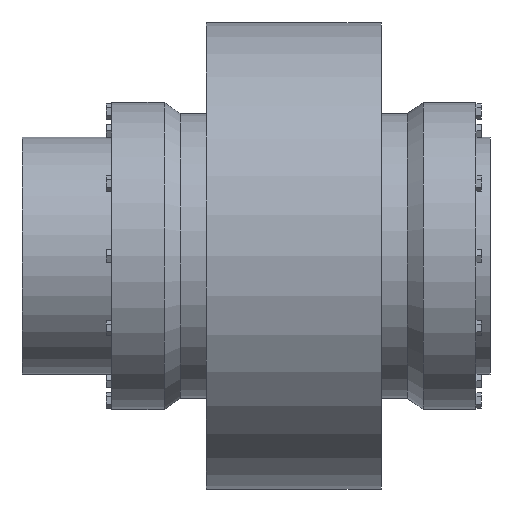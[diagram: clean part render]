
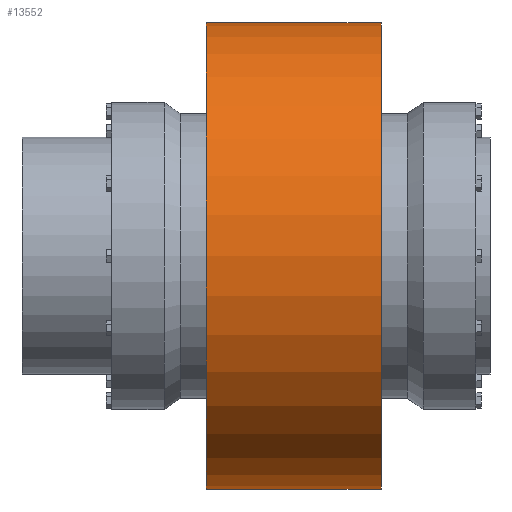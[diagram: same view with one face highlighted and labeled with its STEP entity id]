
A CAD part, top view. The second image highlights one B-rep face of the part: STEP entity #13552.
In plain terms, the highlighted cylindrical face has radius 315 mm (diameter 630 mm), a partial arc.
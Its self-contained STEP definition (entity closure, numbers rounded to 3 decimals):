
#13304=CARTESIAN_POINT('',(118.,0.,0.));
#13305=DIRECTION('',(1.,0.,0.));
#13306=DIRECTION('',(0.,1.,0.));
#13307=AXIS2_PLACEMENT_3D('',#13304,#13305,#13306);
#13309=DIRECTION('',(-1.,0.,0.));
#13310=VECTOR('',#13309,236.);
#13311=CARTESIAN_POINT('',(118.,315.,0.));
#13312=LINE('',#13311,#13310);
#13313=DIRECTION('',(-1.,0.,0.));
#13314=VECTOR('',#13313,236.);
#13315=CARTESIAN_POINT('',(118.,-315.,0.));
#13316=LINE('',#13315,#13314);
#13327=CARTESIAN_POINT('',(-118.,0.,0.));
#13328=DIRECTION('',(1.,0.,0.));
#13329=DIRECTION('',(0.,1.,0.));
#13330=AXIS2_PLACEMENT_3D('',#13327,#13328,#13329);
#13384=CARTESIAN_POINT('',(118.,315.,0.));
#13385=CARTESIAN_POINT('',(-118.,315.,0.));
#13386=VERTEX_POINT('',#13384);
#13387=VERTEX_POINT('',#13385);
#13392=CARTESIAN_POINT('',(118.,-315.,0.));
#13393=CARTESIAN_POINT('',(-118.,-315.,0.));
#13394=VERTEX_POINT('',#13392);
#13395=VERTEX_POINT('',#13393);
#13538=CARTESIAN_POINT('',(-129.8,0.,0.));
#13539=DIRECTION('',(1.,0.,0.));
#13540=DIRECTION('',(0.,-1.,0.));
#13541=AXIS2_PLACEMENT_3D('',#13538,#13539,#13540);
#13542=CYLINDRICAL_SURFACE('',#13541,315.);
#13544=ORIENTED_EDGE('',*,*,#13543,.F.);
#13545=ORIENTED_EDGE('',*,*,#13527,.T.);
#13547=ORIENTED_EDGE('',*,*,#13546,.T.);
#13549=ORIENTED_EDGE('',*,*,#13548,.F.);
#13550=EDGE_LOOP('',(#13544,#13545,#13547,#13549));
#13551=FACE_OUTER_BOUND('',#13550,.F.);
#13552=ADVANCED_FACE('',(#13551),#13542,.T.);
#13308=CIRCLE('',#13307,315.);
#13331=CIRCLE('',#13330,315.);
#13527=EDGE_CURVE('',#13386,#13394,#13308,.T.);
#13543=EDGE_CURVE('',#13386,#13387,#13312,.T.);
#13546=EDGE_CURVE('',#13394,#13395,#13316,.T.);
#13548=EDGE_CURVE('',#13387,#13395,#13331,.T.);
